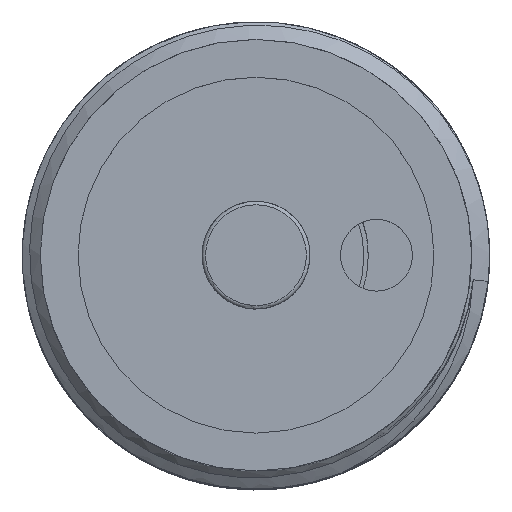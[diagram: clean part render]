
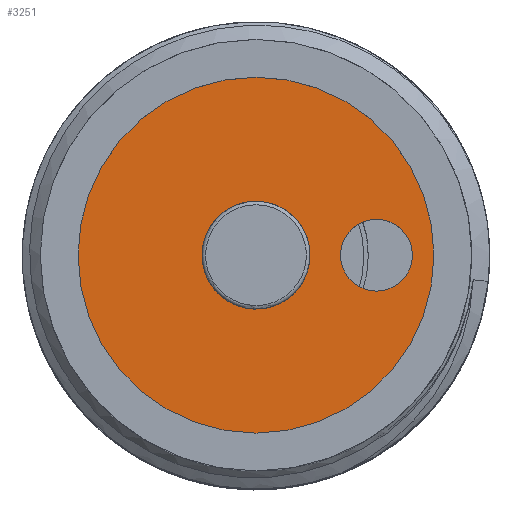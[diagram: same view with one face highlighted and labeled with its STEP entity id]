
A CAD part, top view. The second image highlights one B-rep face of the part: STEP entity #3251.
In plain terms, the highlighted planar face has unit normal (0, 0, 1).
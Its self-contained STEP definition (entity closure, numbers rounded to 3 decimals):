
#2998=PLANE('',#6382);
#3251=ADVANCED_FACE('',(#3366,#3367,#3368),#2998,.F.);
#3366=FACE_BOUND('',#3678,.T.);
#3367=FACE_BOUND('',#3679,.T.);
#3368=FACE_BOUND('',#3680,.T.);
#3678=EDGE_LOOP('',(#4960));
#3679=EDGE_LOOP('',(#4961));
#3680=EDGE_LOOP('',(#4962));
#4960=ORIENTED_EDGE('',*,*,#6069,.F.);
#4961=ORIENTED_EDGE('',*,*,#6071,.F.);
#4962=ORIENTED_EDGE('',*,*,#6073,.F.);
#5422=VERTEX_POINT('',#13733);
#5424=VERTEX_POINT('',#13738);
#5426=VERTEX_POINT('',#13743);
#6069=EDGE_CURVE('',#5422,#5422,#6135,.T.);
#6071=EDGE_CURVE('',#5424,#5424,#6137,.T.);
#6073=EDGE_CURVE('',#5426,#5426,#6139,.T.);
#6135=CIRCLE('',#6374,2.);
#6137=CIRCLE('',#6377,2.);
#6139=CIRCLE('',#6380,10.1);
#6374=AXIS2_PLACEMENT_3D('',#13732,#7351,#7352);
#6377=AXIS2_PLACEMENT_3D('',#13737,#7357,#7358);
#6380=AXIS2_PLACEMENT_3D('',#13742,#7363,#7364);
#6382=AXIS2_PLACEMENT_3D('',#13745,#7367,#7368);
#7351=DIRECTION('',(0.,0.,1.));
#7352=DIRECTION('',(0.,-1.,0.));
#7357=DIRECTION('',(0.,0.,1.));
#7358=DIRECTION('',(0.,-1.,0.));
#7363=DIRECTION('',(0.,0.,-1.));
#7364=DIRECTION('',(0.,-1.,0.));
#7367=DIRECTION('',(0.,0.,-1.));
#7368=DIRECTION('',(0.,1.,0.));
#13732=CARTESIAN_POINT('',(22.171,14.714,0.));
#13733=CARTESIAN_POINT('',(22.171,12.714,0.));
#13737=CARTESIAN_POINT('',(15.471,14.714,0.));
#13738=CARTESIAN_POINT('',(15.471,12.714,0.));
#13742=CARTESIAN_POINT('',(15.471,14.714,0.));
#13743=CARTESIAN_POINT('',(15.471,4.614,0.));
#13745=CARTESIAN_POINT('',(15.471,14.714,0.));
